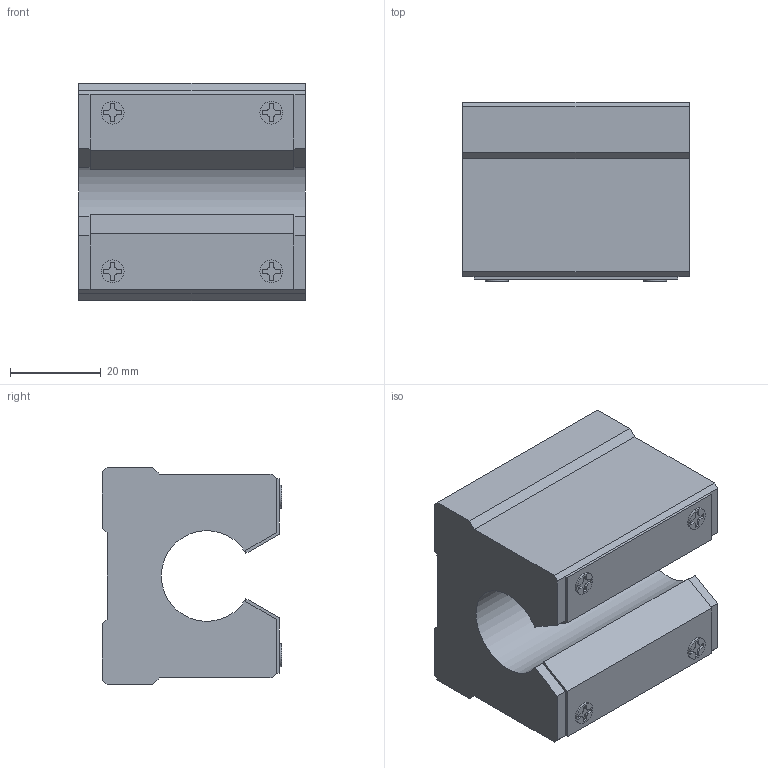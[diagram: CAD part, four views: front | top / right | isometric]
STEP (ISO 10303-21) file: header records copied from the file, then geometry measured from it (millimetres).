
FILE_DESCRIPTION( ( 'STEP AP203' ), '1' );
FILE_NAME( 'e:/temp/worker_73/temp/exporttempdir_5228_2096_BjQ87/format_0/SBR20UU.stp', '2021-06-07T03:10:49', ( 'License CC BY-ND 4.0' ), ( 'CADENAS' ), ' ', 'PARTsolutions', ' ' );
FILE_SCHEMA( ( 'CONFIG_CONTROL_DESIGN' ) );
Length unit declared in the file: millimetre
Products named in the file (1): _SBR20UU
Bounding box: 50 x 39.5 x 48 mm (x, y, z)
Volume: 66853.5 mm3; surface area: 14559.4 mm2
Topology: 1 solids, 1 shells, 124 faces, 322 edges, 212 vertices
Faces by surface type: plane 95, cylinder 25, cone 4
Full cylindrical faces by diameter (mm): 4.917 x4, 5 x4
Entity records: 3744 total; most frequent: CARTESIAN_POINT 647, ORIENTED_EDGE 620, DIRECTION 618, EDGE_CURVE 310, LINE 252, VECTOR 252, VERTEX_POINT 212, AXIS2_PLACEMENT_3D 183
